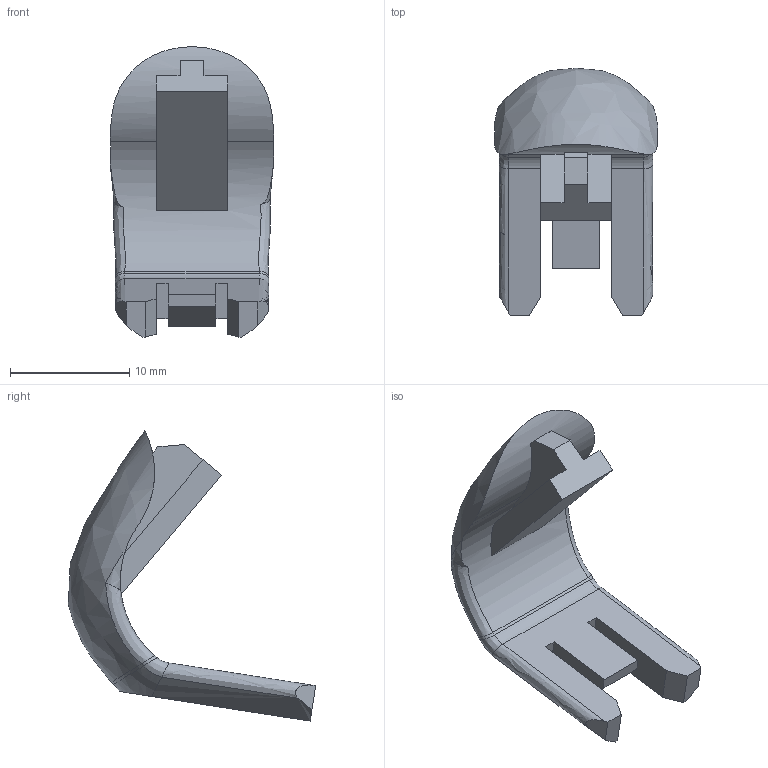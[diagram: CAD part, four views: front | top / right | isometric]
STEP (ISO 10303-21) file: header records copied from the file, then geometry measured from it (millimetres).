
FILE_DESCRIPTION (( 'STEP AP214' ), '1' );
FILE_NAME ('B1-head-antena.step', '2023-08-03T13:47:41', ( '' ), ( '' ), 'SwSTEP 2.0', 'SolidWorks 2020', '' );
FILE_SCHEMA (( 'AUTOMOTIVE_DESIGN' ));
Length unit declared in the file: millimetre
Products named in the file (1): B1-head-antena
Bounding box: 13.71 x 20.73 x 24.32 mm (x, y, z)
Volume: 1367.1 mm3; surface area: 1263.1 mm2
Topology: 1 solids, 1 shells, 47 faces, 127 edges, 82 vertices
Faces by surface type: plane 29, bspline 15, cylinder 3
Entity records: 2749 total; most frequent: CARTESIAN_POINT 1658, ORIENTED_EDGE 254, DIRECTION 163, EDGE_CURVE 127, VERTEX_POINT 82, VECTOR 77, LINE 77, ADVANCED_FACE 47
